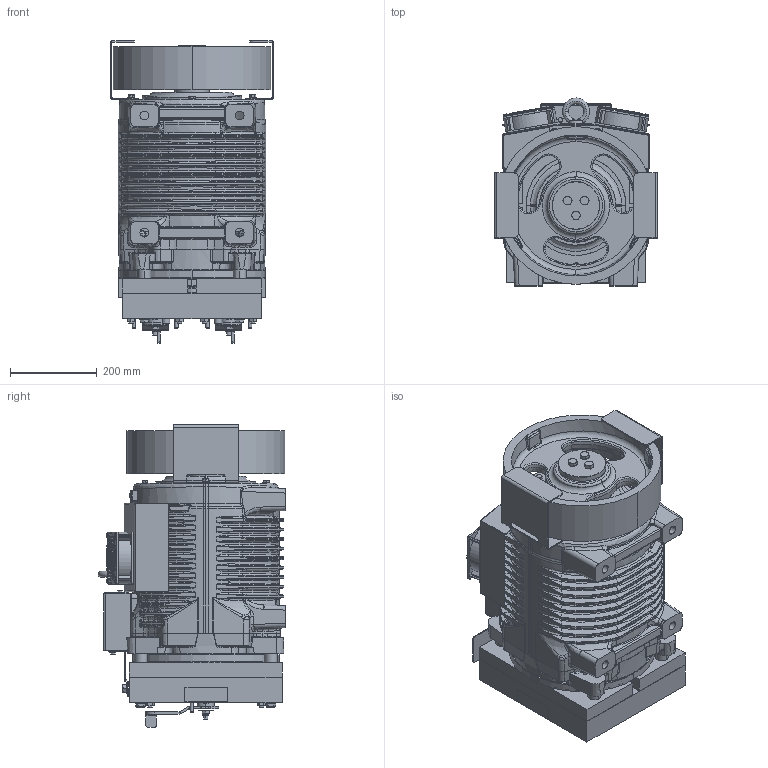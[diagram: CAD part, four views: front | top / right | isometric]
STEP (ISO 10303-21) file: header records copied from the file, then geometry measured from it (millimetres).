
FILE_DESCRIPTION((''),'2;1');
FILE_NAME('00363504_ASM','2020-05-29T',('furlanis'),('Sicor spa'),'CREO PARAMETRIC BY PTC INC, 2017170','CREO PARAMETRIC BY PTC INC, 2017170','');
FILE_SCHEMA(('CONFIG_CONTROL_DESIGN'));
Products named in the file (4): SG48HF; _360_100; _360; 00363504_ASM
Assembly tree (4 placements, depth 2):
  00363504_ASM
    SG48HF
    _360_100
    _360  x2
Bounding box: 377 x 433.5 x 697.34 mm (x, y, z)
Volume: 4428080.4 mm3; surface area: 3367131.9 mm2
Topology: 3 solids, 379 shells, 4558 faces, 14638 edges, 10127 vertices
Faces by surface type: plane 1527, cylinder 1184, bspline 905, torus 490, cone 422, sphere 26, revolution 4
Entity records: 239227 total; most frequent: CARTESIAN_POINT 124929, ORIENTED_EDGE 23003, DIRECTION 20956, EDGE_CURVE 14474, VERTEX_POINT 10047, AXIS2_PLACEMENT_3D 7285, VECTOR 6382, LINE 6382
